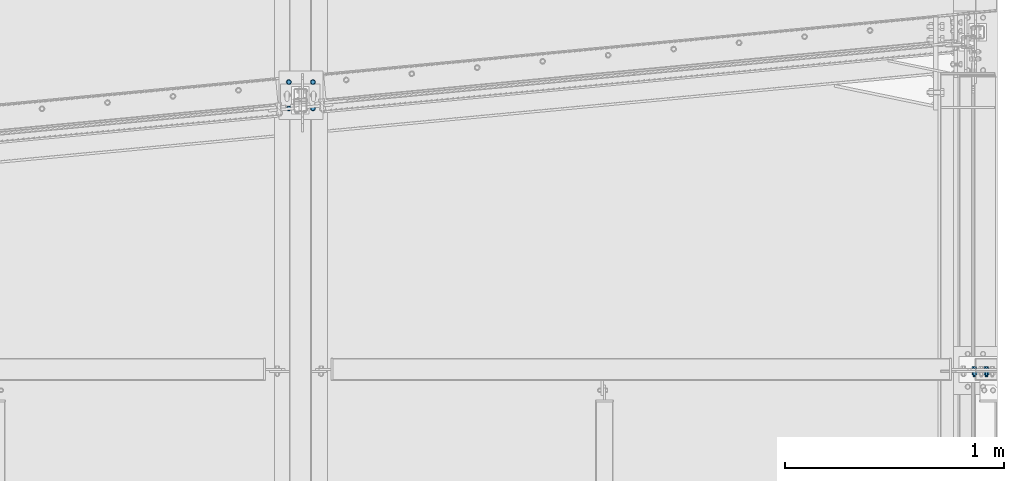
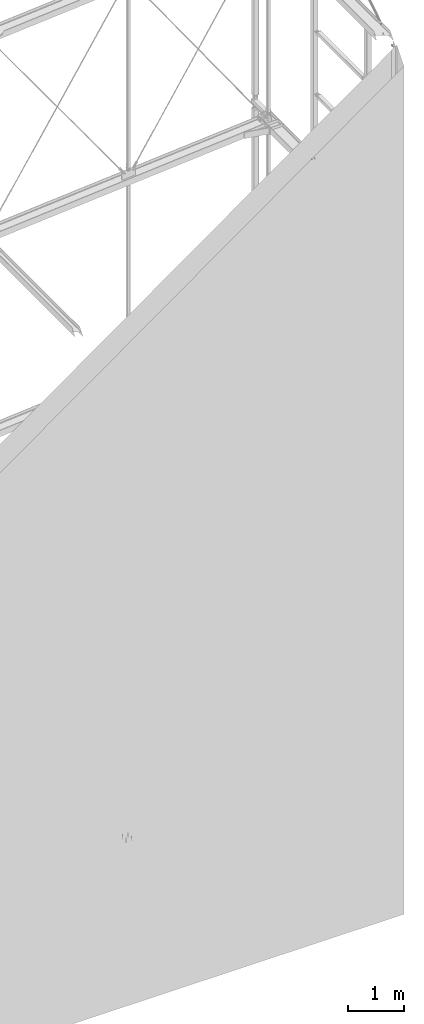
# One storey, part 225 of 271: 2 mechanical fasteners, 2 elements without a shape of their own.
"""IFC2X3 building model written with IfcOpenShell, lengths in millimetres."""

from ifc_helpers import new_model, si_unit, frame, frame_2d, origin_with_axes, origin_2d_with_axis, place, context, subcontext, project, spatial, polyline, circle_curve, parameter, trimmed, segment, composite_curve, circle, outline, extrude, source, transform, mapped, material, type_object, element, aggregate, save


model = new_model("IFC2X3")

# Units and contexts
model_context = context("Model", 3, precision=1e-05, world=origin_with_axes())
body_context = subcontext(model_context, "Body", "Model", "MODEL_VIEW")
ifc_project = project(units=[si_unit("LENGTHUNIT", "METRE", prefix="MILLI"), si_unit("AREAUNIT", "SQUARE_METRE"), si_unit("VOLUMEUNIT", "CUBIC_METRE"), si_unit("MASSUNIT", "GRAM", prefix="KILO"), si_unit("TIMEUNIT", "SECOND"), si_unit("PLANEANGLEUNIT", "RADIAN"), si_unit("SOLIDANGLEUNIT", "STERADIAN"), si_unit("THERMODYNAMICTEMPERATUREUNIT", "DEGREE_CELSIUS"), si_unit("LUMINOUSINTENSITYUNIT", "LUMEN")], contexts=[model_context])

# Site, building, storey
site_placement = place(None, origin_with_axes())
site = spatial("IfcSite", under=ifc_project, at=site_placement, Name="Undefined", CompositionType="ELEMENT")
building_placement = place(site_placement, origin_with_axes())
building = spatial("IfcBuilding", under=site, at=building_placement, Name="Undefined", CompositionType="ELEMENT")
storey_placement = place(building_placement, origin_with_axes())
storey = spatial("IfcBuildingStorey", under=building, at=storey_placement, Name="Undefined", CompositionType="ELEMENT", Elevation=0.0)

# Assembly, mechanical fastener
assembly_1_placement = place(storey_placement, origin_with_axes())
assembly_1 = element("IfcElementAssembly", 1, at=assembly_1_placement, inside=storey, AssemblyPlace="NOTDEFINED", PredefinedType="REINFORCEMENT_UNIT")
ifc_material = material(Name="Undefined")
mechanical_fastener_type = type_object("IfcMechanicalFastenerType", Name="Bolt assembly")
shared_shape_1 = source(origin_with_axes(), body_context, "Body", "SweptSolid", [
    extrude(circle(Radius=7.0, at=origin_2d_with_axis()), frame((0.0, 0.0, 0.0), z_axis=(0.0, 1.0, 0.0), x_axis=(1.0, 0.0, 0.0)), (0.0, 0.0, 1.0), 16.1),
    extrude(outline(polyline([(10.39230484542, 0.0), (5.19615242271, 9.00000000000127), (-5.19615242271, 9.00000000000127), (-10.39230484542, 0.0), (-5.19615242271, -9.00000000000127), (5.19615242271, -9.00000000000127), (10.39230484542, 0.0)])), frame((0.0, -7.5, 0.0), z_axis=(0.0, 1.0, 0.0), x_axis=(1.0, 0.0, 0.0)), (0.0, 0.0, 1.0), 7.5),
    extrude(circle(Radius=6.0, at=origin_2d_with_axis()), frame((0.0, 0.0, 0.0), z_axis=(0.0, 1.0, 0.0), x_axis=(1.0, 0.0, 0.0)), (0.0, 0.0, 1.0), 100.0),
    extrude(circle(Radius=12.0, at=origin_2d_with_axis()), frame((0.0, 16.0, 0.0), z_axis=(0.0, 1.0, 0.0), x_axis=(1.0, 0.0, 0.0)), (0.0, 0.0, 1.0), 2.5),
    extrude(outline(polyline([(10.96965511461, 0.0), (5.484827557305, 9.50000000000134), (-5.484827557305, 9.50000000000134), (-10.96965511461, 0.0), (-5.484827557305, -9.50000000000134), (5.484827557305, -9.50000000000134), (10.96965511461, 0.0)])), frame((0.0, 18.5, 0.0), z_axis=(0.0, 1.0, 0.0), x_axis=(1.0, 0.0, 0.0)), (0.0, 0.0, 1.0), 10.0),
])
mechanical_fastener_1_placement = place(assembly_1_placement, frame((9530.99999995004, 4110.0, 9.09494701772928e-13), z_axis=(1.0, 0.0, 0.0), x_axis=(0.0, -1.0, 0.0)))
mechanical_fastener_1 = element("IfcMechanicalFastener", 2, at=mechanical_fastener_1_placement, type_object=mechanical_fastener_type, material=ifc_material, Name="Bolt assembly", NominalDiameter=12.0, NominalLength=100.0, context=body_context, shape_type="MappedRepresentation", body=[
    mapped(shared_shape_1, transform((0.0, 0.0, -55.0))),
    mapped(shared_shape_1, transform((120.0, 0.0, -55.0))),
    mapped(shared_shape_1, transform((0.0, 0.0, 55.0))),
    mapped(shared_shape_1, transform((120.0, 0.0, 55.0))),
])
aggregate(assembly_1, [mechanical_fastener_1])

assembly_2_placement = place(storey_placement, origin_with_axes())
assembly_2 = element("IfcElementAssembly", 3, at=assembly_2_placement, inside=storey, AssemblyPlace="NOTDEFINED", PredefinedType="RIGID_FRAME")
shared_shape_2 = source(origin_with_axes(), body_context, "Body", "SweptSolid", [
    extrude(circle(Radius=6.5, at=origin_2d_with_axis()), frame((0.0, 7.89999999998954, 0.0), z_axis=(0.0, 1.0, 0.0), x_axis=(1.0, 0.0, 0.0)), (0.0, 0.0, 1.0), 8.1),
    extrude(outline(composite_curve([segment(polyline([(6.5, 13.5), (6.5, -13.5)]), True, "CONTINUOUS"), segment(trimmed(circle_curve(frame_2d((0.0, -13.5), x_axis=(1.0, 0.0)), 6.5), [parameter(0.0)], [parameter(3.14159265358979)], False, "PARAMETER"), True, "CONTINUOUS"), segment(polyline([(-6.5, -13.5), (-6.5, 13.5)]), True, "CONTINUOUS"), segment(trimmed(circle_curve(frame_2d((0.0, 13.5), x_axis=(-1.0, 0.0)), 6.5), [parameter(0.0)], [parameter(3.14159265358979)], False, "PARAMETER"), True, "DISCONTINUOUS")], self_intersect=False)), frame((0.0, 0.0999999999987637, 0.0), z_axis=(0.0, 1.0, 0.0), x_axis=(1.0, 0.0, 0.0)), (0.0, 0.0, 1.0), 8.0),
    extrude(outline(polyline([(10.39230484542, 0.0), (5.19615242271, 9.00000000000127), (-5.19615242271, 9.00000000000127), (-10.39230484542, 0.0), (-5.19615242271, -9.00000000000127), (5.19615242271, -9.00000000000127), (10.39230484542, 0.0)])), frame((0.0, -10.0, 0.0), z_axis=(0.0, 1.0, 0.0), x_axis=(1.0, 0.0, 0.0)), (0.0, 0.0, 1.0), 7.5),
    extrude(circle(Radius=6.0, at=origin_2d_with_axis()), frame((0.0, -2.50000000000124, 0.0), z_axis=(0.0, 1.0, 0.0), x_axis=(1.0, 0.0, 0.0)), (0.0, 0.0, 1.0), 40.0),
    extrude(circle(Radius=12.0, at=origin_2d_with_axis()), frame((0.0, -2.50000000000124, 0.0), z_axis=(0.0, 1.0, 0.0), x_axis=(1.0, 0.0, 0.0)), (0.0, 0.0, 1.0), 2.5),
    extrude(circle(Radius=12.0, at=origin_2d_with_axis()), frame((0.0, 16.0, 0.0), z_axis=(0.0, 1.0, 0.0), x_axis=(1.0, 0.0, 0.0)), (0.0, 0.0, 1.0), 2.5),
    extrude(outline(polyline([(10.96965511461, 0.0), (5.484827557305, 9.50000000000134), (-5.484827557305, 9.50000000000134), (-10.96965511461, 0.0), (-5.484827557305, -9.50000000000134), (5.484827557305, -9.50000000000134), (10.96965511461, 0.0)])), frame((0.0, 18.5, 0.0), z_axis=(0.0, 1.0, 0.0), x_axis=(1.0, 0.0, 0.0)), (0.0, 0.0, 1.0), 10.0),
])
mechanical_fastener_2_placement = place(assembly_2_placement, frame((12658.3756870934, 2803.05211980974, 14372.8499999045), z_axis=(0.0, 0.0, 1.0), x_axis=(-1.0, 0.0, 1.38777878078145e-17)))
mechanical_fastener_2 = element("IfcMechanicalFastener", 4, at=mechanical_fastener_2_placement, type_object=mechanical_fastener_type, material=ifc_material, Name="Bolt assembly", NominalDiameter=12.0, NominalLength=40.0, context=body_context, shape_type="MappedRepresentation", body=[
    mapped(shared_shape_2, transform((0.0, 0.0, 0.0))),
    mapped(shared_shape_2, transform((55.0, 0.0, 0.0))),
])
aggregate(assembly_2, [mechanical_fastener_2])

save(model, "model.ifc")
